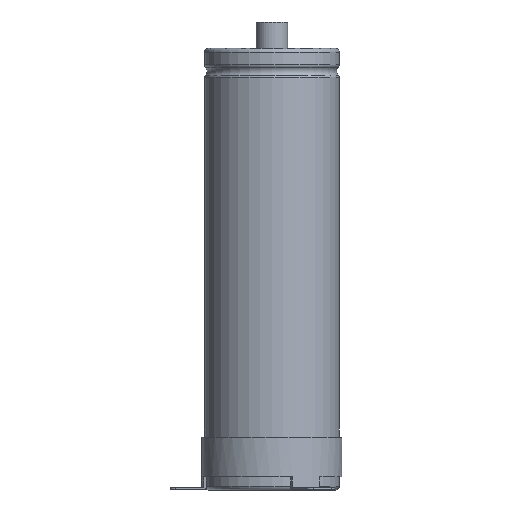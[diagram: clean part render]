
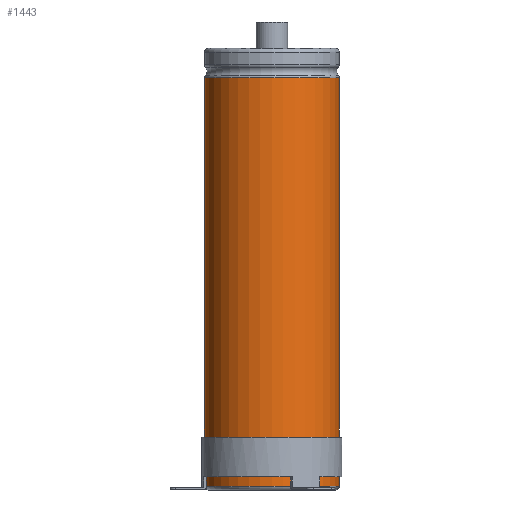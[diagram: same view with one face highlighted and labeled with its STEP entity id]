
A CAD part, front view. The second image highlights one B-rep face of the part: STEP entity #1443.
In plain terms, the highlighted cylindrical face has radius 25.5 mm (diameter 51 mm), a partial arc.
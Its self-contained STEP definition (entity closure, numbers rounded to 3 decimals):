
#421=LINE('',#8075,#635);
#422=LINE('',#8079,#636);
#635=VECTOR('',#5948,1.);
#636=VECTOR('',#5951,1.);
#1096=FACE_OUTER_BOUND('',#1908,.T.);
#1443=ADVANCED_FACE('',(#1096),#1554,.T.);
#1554=CYLINDRICAL_SURFACE('',#4869,25.5);
#1908=EDGE_LOOP('',(#2925,#2926,#2927,#2928));
#2925=ORIENTED_EDGE('',*,*,#4079,.T.);
#2926=ORIENTED_EDGE('',*,*,#4080,.T.);
#2927=ORIENTED_EDGE('',*,*,#4081,.F.);
#2928=ORIENTED_EDGE('',*,*,#4082,.F.);
#3512=VERTEX_POINT('',#8068);
#3514=VERTEX_POINT('',#8072);
#3515=VERTEX_POINT('',#8076);
#3516=VERTEX_POINT('',#8078);
#4079=EDGE_CURVE('',#3512,#3514,#4398,.T.);
#4080=EDGE_CURVE('',#3514,#3515,#421,.T.);
#4081=EDGE_CURVE('',#3516,#3515,#4399,.T.);
#4082=EDGE_CURVE('',#3512,#3516,#422,.T.);
#4398=CIRCLE('',#4866,25.5);
#4399=CIRCLE('',#4868,25.5);
#4866=AXIS2_PLACEMENT_3D('',#8073,#5944,#5945);
#4868=AXIS2_PLACEMENT_3D('',#8077,#5949,#5950);
#4869=AXIS2_PLACEMENT_3D('',#8080,#5952,#5953);
#5944=DIRECTION('',(0.,0.,-1.));
#5945=DIRECTION('',(0.,1.,0.));
#5948=DIRECTION('',(0.,0.,-1.));
#5949=DIRECTION('',(0.,0.,-1.));
#5950=DIRECTION('',(0.,1.,0.));
#5951=DIRECTION('',(0.,0.,-1.));
#5952=DIRECTION('',(0.,0.,-1.));
#5953=DIRECTION('',(0.,1.,0.));
#8068=CARTESIAN_POINT('',(5.084,24.988,155.9));
#8072=CARTESIAN_POINT('',(-5.084,24.988,155.9));
#8073=CARTESIAN_POINT('',(0.,0.,155.9));
#8075=CARTESIAN_POINT('',(-5.084,24.988,155.9));
#8076=CARTESIAN_POINT('',(-5.084,24.988,1.5));
#8077=CARTESIAN_POINT('',(0.,0.,1.5));
#8078=CARTESIAN_POINT('',(5.084,24.988,1.5));
#8079=CARTESIAN_POINT('',(5.084,24.988,155.9));
#8080=CARTESIAN_POINT('',(0.,0.,0.));
